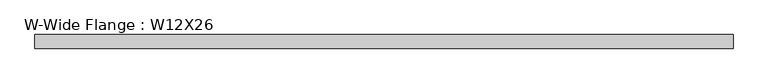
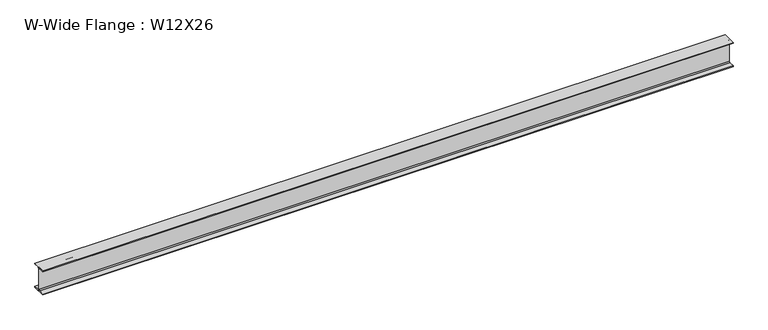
"""IFC4 building model written with IfcOpenShell, lengths in millimetres: beam geometry, W-Wide Flange : W12X26."""

from ifc_helpers import new_model, si_unit, point, frame, frame_2d, origin, place, context, project, spatial, polyline, circle_curve, trimmed, segment, composite_curve, outline, extrude, source, transform, mapped, element, save


def w_wide_flange_w12x26_ebb6aad1(model_context):
    return source(origin(), model_context, "Body", "SweptSolid", [
        extrude(outline(composite_curve([segment(polyline([(82.55, -146.05), (82.55, -155.575), (-82.55, -155.575), (-82.55, -146.05), (-15.875, -146.05)]), True, "CONTINUOUS"), segment(trimmed(circle_curve(frame_2d((-15.875, -133.35)), 12.7), [point((-15.875, -146.05))], [point((-3.175, -133.35))], True, "CARTESIAN"), True, "CONTINUOUS"), segment(polyline([(-3.175, -133.35), (-3.175, 133.35)]), True, "CONTINUOUS"), segment(trimmed(circle_curve(frame_2d((-15.875, 133.35)), 12.7), [point((-3.175, 133.35))], [point((-15.875, 146.05))], True, "CARTESIAN"), True, "CONTINUOUS"), segment(polyline([(-15.875, 146.05), (-82.55, 146.05), (-82.55, 155.575), (82.55, 155.575), (82.55, 146.05), (15.875, 146.05)]), True, "CONTINUOUS"), segment(trimmed(circle_curve(frame_2d((15.875, 133.35)), 12.7), [point((15.875, 146.05))], [point((3.175, 133.35))], True, "CARTESIAN"), True, "CONTINUOUS"), segment(polyline([(3.175, 133.35), (3.175, -133.35)]), True, "CONTINUOUS"), segment(trimmed(circle_curve(frame_2d((15.875, -133.35)), 12.7), [point((3.175, -133.35))], [point((15.875, -146.05))], True, "CARTESIAN"), True, "CONTINUOUS"), segment(polyline([(15.875, -146.05), (82.55, -146.05)]), True, "CONTINUOUS")], self_intersect=False)), frame((-4229.1, 0.0, 0.0), z_axis=(1.0, 0.0, 0.0), x_axis=(0.0, 1.0, 0.0)), (0.0, 0.0, 1.0), 8458.2),
    ])


if __name__ == "__main__":
    model = new_model("IFC4")
    model_context = context("Model", 3, world=origin())
    ifc_project = project(units=[si_unit("LENGTHUNIT", "METRE", prefix="MILLI")], contexts=[model_context])
    site = spatial("IfcSite", under=ifc_project)
    building = spatial("IfcBuilding", under=site)
    placement = place(None, origin())
    w_wide_flange_w12x26_shape = w_wide_flange_w12x26_ebb6aad1(model_context)
    element("IfcBeam", 1, ObjectType="W-Wide Flange : W12X26", at=placement, inside=building, context=model_context, shape_type="MappedRepresentation", body=[
        mapped(w_wide_flange_w12x26_shape, transform((0.0, 0.0, 0.0), x_axis=(1.0, 0.0, 0.0), y_axis=(0.0, 1.0, 0.0), z_axis=(0.0, 0.0, 1.0))),
    ])
    save(model, "model.ifc")
